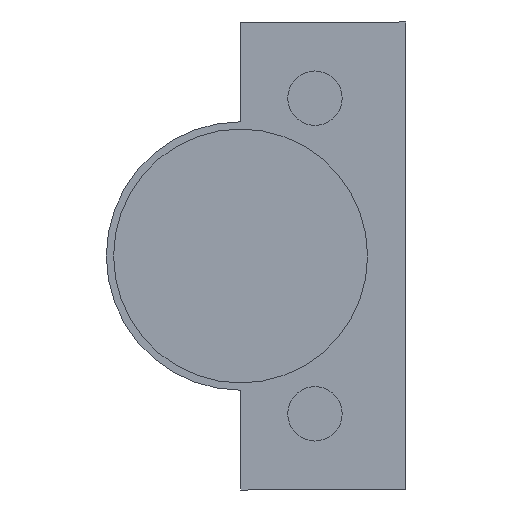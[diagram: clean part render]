
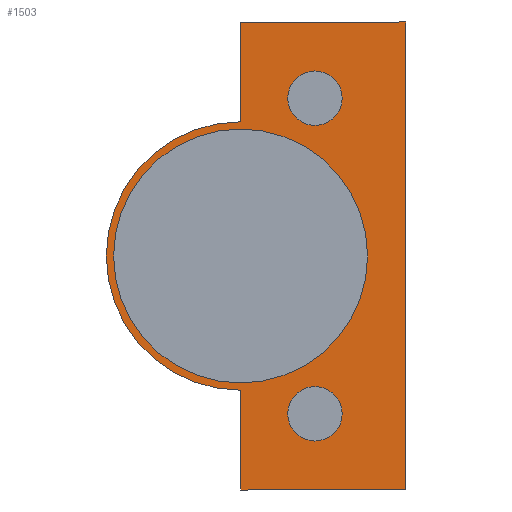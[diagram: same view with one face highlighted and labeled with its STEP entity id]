
A CAD part, front view. The second image highlights one B-rep face of the part: STEP entity #1503.
In plain terms, the highlighted planar face has unit normal (0, -1, 0).
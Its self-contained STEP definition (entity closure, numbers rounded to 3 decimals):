
#4 = CIRCLE ( 'NONE', #391, 3.75 ) ;
#32 = LINE ( 'NONE', #624, #35 ) ;
#35 = VECTOR ( 'NONE', #654, 1000. ) ;
#36 = CIRCLE ( 'NONE', #328, 17.5 ) ;
#70 = LINE ( 'NONE', #446, #71 ) ;
#71 = VECTOR ( 'NONE', #445, 1000. ) ;
#79 = CIRCLE ( 'NONE', #385, 3.75 ) ;
#80 = CIRCLE ( 'NONE', #331, 3.75 ) ;
#87 = LINE ( 'NONE', #467, #89 ) ;
#88 = CIRCLE ( 'NONE', #311, 17.5 ) ;
#89 = VECTOR ( 'NONE', #463, 1000. ) ;
#138 = FACE_OUTER_BOUND ( 'NONE', #1050, .T. ) ;
#141 = FACE_BOUND ( 'NONE', #1078, .T. ) ;
#143 = FACE_BOUND ( 'NONE', #998, .T. ) ;
#145 = FACE_BOUND ( 'NONE', #1185, .T. ) ;
#224 = EDGE_CURVE ( 'NONE', #723, #725, #1367, .T. ) ;
#228 = EDGE_CURVE ( 'NONE', #704, #730, #1366, .T. ) ;
#235 = EDGE_CURVE ( 'NONE', #696, #704, #1378, .T. ) ;
#255 = AXIS2_PLACEMENT_3D ( 'NONE', #1583, #1658, #1657 ) ;
#303 = EDGE_CURVE ( 'NONE', #763, #733, #738, .T. ) ;
#307 = EDGE_CURVE ( 'NONE', #716, #753, #4, .T. ) ;
#311 = AXIS2_PLACEMENT_3D ( 'NONE', #470, #457, #458 ) ;
#328 = AXIS2_PLACEMENT_3D ( 'NONE', #616, #658, #657 ) ;
#329 = AXIS2_PLACEMENT_3D ( 'NONE', #806, #854, #862 ) ;
#331 = AXIS2_PLACEMENT_3D ( 'NONE', #442, #435, #434 ) ;
#350 = EDGE_CURVE ( 'NONE', #755, #727, #36, .T. ) ;
#357 = EDGE_CURVE ( 'NONE', #709, #725, #32, .T. ) ;
#385 = AXIS2_PLACEMENT_3D ( 'NONE', #593, #437, #436 ) ;
#391 = AXIS2_PLACEMENT_3D ( 'NONE', #603, #674, #675 ) ;
#399 = EDGE_CURVE ( 'NONE', #723, #696, #70, .T. ) ;
#404 = EDGE_CURVE ( 'NONE', #753, #716, #79, .T. ) ;
#405 = EDGE_CURVE ( 'NONE', #733, #763, #80, .T. ) ;
#409 = AXIS2_PLACEMENT_3D ( 'NONE', #944, #677, #678 ) ;
#414 = EDGE_CURVE ( 'NONE', #727, #755, #88, .T. ) ;
#421 = EDGE_CURVE ( 'NONE', #730, #709, #87, .T. ) ;
#434 = DIRECTION ( 'NONE',  ( -1., 0., 0. ) ) ;
#435 = DIRECTION ( 'NONE',  ( 0., 1., 0. ) ) ;
#436 = DIRECTION ( 'NONE',  ( -1., 0., 0. ) ) ;
#437 = DIRECTION ( 'NONE',  ( 0., 1., 0. ) ) ;
#442 = CARTESIAN_POINT ( 'NONE',  ( 22.25, 0., -21.75 ) ) ;
#445 = DIRECTION ( 'NONE',  ( 0., 0., 1. ) ) ;
#446 = CARTESIAN_POINT ( 'NONE',  ( 12., 0., -31. ) ) ;
#457 = DIRECTION ( 'NONE',  ( 0., -1., 0. ) ) ;
#458 = DIRECTION ( 'NONE',  ( -1., 0., 0. ) ) ;
#463 = DIRECTION ( 'NONE',  ( 1., 0., 0. ) ) ;
#467 = CARTESIAN_POINT ( 'NONE',  ( 34.75, 0., 32.25 ) ) ;
#470 = CARTESIAN_POINT ( 'NONE',  ( 12., 0., 0. ) ) ;
#475 = CARTESIAN_POINT ( 'NONE',  ( -5.5, 0., 0. ) ) ;
#477 = CARTESIAN_POINT ( 'NONE',  ( 34.75, 0., -32.25 ) ) ;
#479 = CARTESIAN_POINT ( 'NONE',  ( 34.75, 0., 32.25 ) ) ;
#480 = CARTESIAN_POINT ( 'NONE',  ( 26., 0., 21.75 ) ) ;
#481 = CARTESIAN_POINT ( 'NONE',  ( 18.5, 0., -21.75 ) ) ;
#484 = CARTESIAN_POINT ( 'NONE',  ( 12., 0., 32.25 ) ) ;
#492 = CARTESIAN_POINT ( 'NONE',  ( 29.5, 0., 0. ) ) ;
#494 = CARTESIAN_POINT ( 'NONE',  ( 18.5, 0., 21.75 ) ) ;
#508 = CARTESIAN_POINT ( 'NONE',  ( 26., 0., -21.75 ) ) ;
#511 = CARTESIAN_POINT ( 'NONE',  ( 12., 0., -32.25 ) ) ;
#532 = CARTESIAN_POINT ( 'NONE',  ( 12., 0., -18.5 ) ) ;
#545 = CARTESIAN_POINT ( 'NONE',  ( 12., 0., 18.5 ) ) ;
#593 = CARTESIAN_POINT ( 'NONE',  ( 22.25, 0., 21.75 ) ) ;
#603 = CARTESIAN_POINT ( 'NONE',  ( 22.25, 0., 21.75 ) ) ;
#616 = CARTESIAN_POINT ( 'NONE',  ( 12., 0., 0. ) ) ;
#624 = CARTESIAN_POINT ( 'NONE',  ( 34.75, 0., 32.25 ) ) ;
#654 = DIRECTION ( 'NONE',  ( 0., 0., -1. ) ) ;
#657 = DIRECTION ( 'NONE',  ( -1., 0., 0. ) ) ;
#658 = DIRECTION ( 'NONE',  ( 0., -1., 0. ) ) ;
#674 = DIRECTION ( 'NONE',  ( 0., 1., 0. ) ) ;
#675 = DIRECTION ( 'NONE',  ( -1., 0., 0. ) ) ;
#677 = DIRECTION ( 'NONE',  ( 0., 1., 0. ) ) ;
#678 = DIRECTION ( 'NONE',  ( -1., 0., 0. ) ) ;
#696 = VERTEX_POINT ( 'NONE', #532 ) ;
#704 = VERTEX_POINT ( 'NONE', #545 ) ;
#709 = VERTEX_POINT ( 'NONE', #479 ) ;
#716 = VERTEX_POINT ( 'NONE', #480 ) ;
#723 = VERTEX_POINT ( 'NONE', #511 ) ;
#725 = VERTEX_POINT ( 'NONE', #477 ) ;
#727 = VERTEX_POINT ( 'NONE', #475 ) ;
#730 = VERTEX_POINT ( 'NONE', #484 ) ;
#733 = VERTEX_POINT ( 'NONE', #508 ) ;
#738 = CIRCLE ( 'NONE', #409, 3.75 ) ;
#753 = VERTEX_POINT ( 'NONE', #494 ) ;
#755 = VERTEX_POINT ( 'NONE', #492 ) ;
#763 = VERTEX_POINT ( 'NONE', #481 ) ;
#806 = CARTESIAN_POINT ( 'NONE',  ( 12., 0., 0. ) ) ;
#811 = DIRECTION ( 'NONE',  ( 0., 0., 1. ) ) ;
#815 = CARTESIAN_POINT ( 'NONE',  ( 12., 0., 18.5 ) ) ;
#816 = DIRECTION ( 'NONE',  ( 1., 0., 0. ) ) ;
#824 = CARTESIAN_POINT ( 'NONE',  ( 34.75, 0., -32.25 ) ) ;
#854 = DIRECTION ( 'NONE',  ( 0., 1., 0. ) ) ;
#862 = DIRECTION ( 'NONE',  ( -1., 0., 0. ) ) ;
#944 = CARTESIAN_POINT ( 'NONE',  ( 22.25, 0., -21.75 ) ) ;
#998 = EDGE_LOOP ( 'NONE', ( #1189, #1166 ) ) ;
#1002 = ORIENTED_EDGE ( 'NONE', *, *, #235, .F. ) ;
#1050 = EDGE_LOOP ( 'NONE', ( #1291, #1303, #1307, #1302, #1308, #1002 ) ) ;
#1078 = EDGE_LOOP ( 'NONE', ( #1306, #1309 ) ) ;
#1157 = ORIENTED_EDGE ( 'NONE', *, *, #350, .F. ) ;
#1165 = ORIENTED_EDGE ( 'NONE', *, *, #414, .F. ) ;
#1166 = ORIENTED_EDGE ( 'NONE', *, *, #307, .T. ) ;
#1185 = EDGE_LOOP ( 'NONE', ( #1165, #1157 ) ) ;
#1189 = ORIENTED_EDGE ( 'NONE', *, *, #404, .T. ) ;
#1291 = ORIENTED_EDGE ( 'NONE', *, *, #399, .F. ) ;
#1302 = ORIENTED_EDGE ( 'NONE', *, *, #421, .F. ) ;
#1303 = ORIENTED_EDGE ( 'NONE', *, *, #224, .T. ) ;
#1306 = ORIENTED_EDGE ( 'NONE', *, *, #303, .T. ) ;
#1307 = ORIENTED_EDGE ( 'NONE', *, *, #357, .F. ) ;
#1308 = ORIENTED_EDGE ( 'NONE', *, *, #228, .F. ) ;
#1309 = ORIENTED_EDGE ( 'NONE', *, *, #405, .T. ) ;
#1363 = VECTOR ( 'NONE', #816, 1000. ) ;
#1366 = LINE ( 'NONE', #815, #1371 ) ;
#1367 = LINE ( 'NONE', #824, #1363 ) ;
#1371 = VECTOR ( 'NONE', #811, 1000. ) ;
#1378 = CIRCLE ( 'NONE', #329, 18.5 ) ;
#1503 = ADVANCED_FACE ( 'NONE', ( #138, #141, #143, #145 ), #1580, .F. ) ;
#1580 = PLANE ( 'NONE',  #255 ) ;
#1583 = CARTESIAN_POINT ( 'NONE',  ( 12., 0., 0. ) ) ;
#1657 = DIRECTION ( 'NONE',  ( -1., 0., 0. ) ) ;
#1658 = DIRECTION ( 'NONE',  ( 0., 1., 0. ) ) ;
